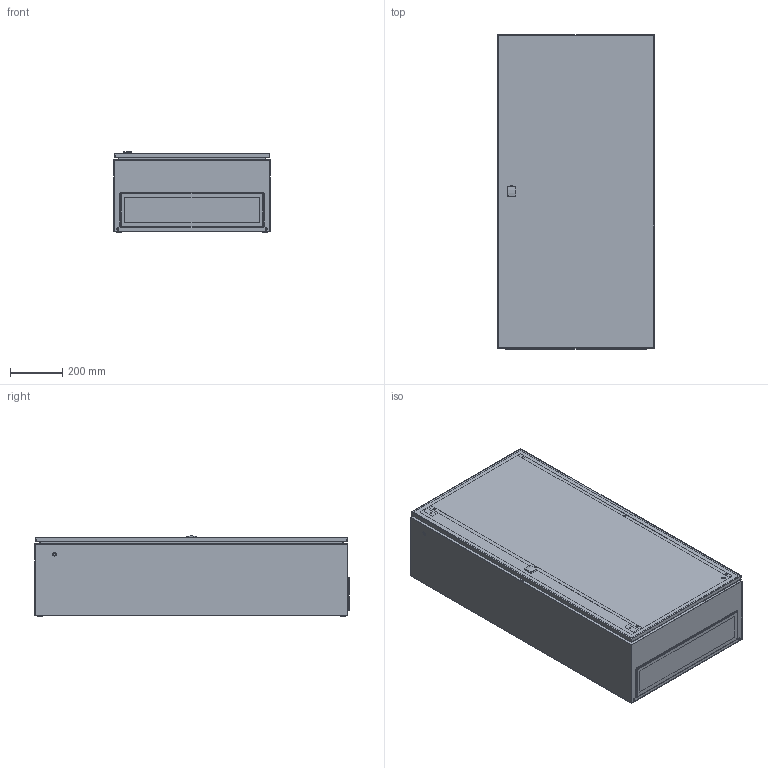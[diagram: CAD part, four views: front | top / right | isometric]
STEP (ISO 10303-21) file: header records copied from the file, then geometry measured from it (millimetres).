
FILE_DESCRIPTION(/* description */ ('STEP AP203'),/* implementation_level */ '2;1');
FILE_NAME(/* name */ 'MAS1206030R5(0)',/* time_stamp */ '2024-03-14T14:19:11+01:00',/* author */ ('License CC BY-ND 4.0'),/* organization */ ('CADENAS'),/* preprocessor_version */ 'ST-DEVELOPER v19.3',/* originating_system */ 'PARTsolutions',/* authorisation */ ' ');
FILE_SCHEMA (('CONFIG_CONTROL_DESIGN'));
Length unit declared in the file: millimetre
Products named in the file (10): MAS1206030R5(0); MAS1206030(0); MMSH06SS(0)_right; ADP12060R5(0); ALL503(0,2.8); MASLS1200(0); 8844-0649-02(0)_Rod guide; AMP12060_MPL(0); AF04R5_GP(0); AG04_GPG(0)
Assembly tree (12 placements, depth 2):
  MAS1206030R5(0)
    MAS1206030(0)
    MMSH06SS(0)_right  x3
    ADP12060R5(0)
    ALL503(0,2.8)
    MASLS1200(0)
    8844-0649-02(0)_Rod guide  x2
    AMP12060_MPL(0)
    AF04R5_GP(0)
    AG04_GPG(0)
Bounding box: 600 x 1203.9 x 307.67 mm (x, y, z)
Volume: 6373539.8 mm3; surface area: 6902578 mm2
Topology: 12 solids, 12 shells, 695 faces, 1682 edges, 1096 vertices
Faces by surface type: plane 477, cylinder 145, cone 64, torus 9
Full cylindrical faces by diameter (mm): 4 x4, 4.9 x3, 5 x1, 5.8 x2, 6 x8, 6.5 x2, 7 x8, 7.75 x2, 8 x13, 8.5 x4, 8.7 x2, 9 x3, 14 x9, 15 x4, 18 x1, 27 x1
Entity records: 18298 total; most frequent: CARTESIAN_POINT 3184, DIRECTION 2983, ORIENTED_EDGE 2730, EDGE_CURVE 1365, AXIS2_PLACEMENT_3D 1017, VERTEX_POINT 956, LINE 949, VECTOR 949
